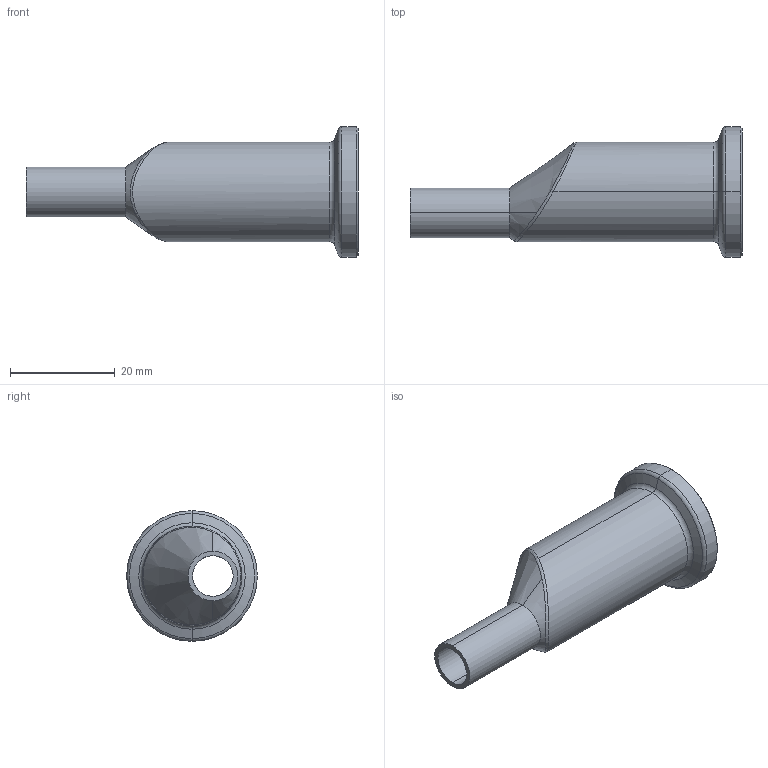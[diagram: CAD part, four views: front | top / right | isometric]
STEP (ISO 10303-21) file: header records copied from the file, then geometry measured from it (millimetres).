
FILE_DESCRIPTION (( 'STEP AP214' ), '1' );
FILE_NAME ('TE32SCW6L.75x.375-...STEP', '2016-06-01T10:22:10', ( 'eran' ), ( '' ), 'SwSTEP 2.0', 'SolidWorks 2016', '' );
FILE_SCHEMA (( 'AUTOMOTIVE_DESIGN' ));
Length unit declared in the file: millimetre
Products named in the file (1): TE32SCW6L.75x.375-..
Bounding box: 63.5 x 24.99 x 24.99 mm (x, y, z)
Volume: 8304 mm3; surface area: 5769.5 mm2
Topology: 1 solids, 1 shells, 45 faces, 99 edges, 57 vertices
Faces by surface type: cone 16, cylinder 15, torus 9, plane 3, bspline 2
Entity records: 1830 total; most frequent: CARTESIAN_POINT 817, DIRECTION 216, ORIENTED_EDGE 198, EDGE_CURVE 99, AXIS2_PLACEMENT_3D 94, VERTEX_POINT 57, CIRCLE 50, EDGE_LOOP 48
